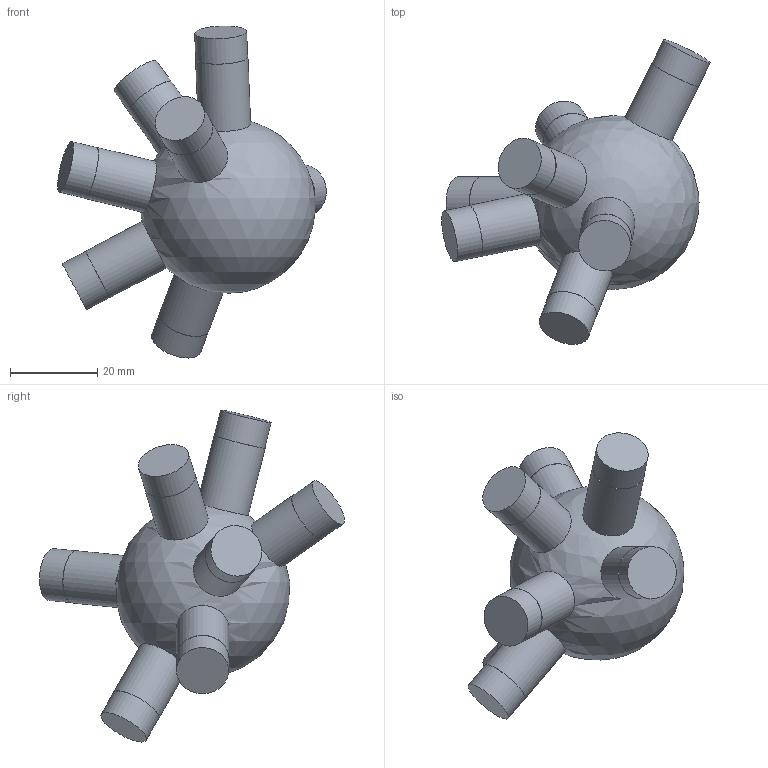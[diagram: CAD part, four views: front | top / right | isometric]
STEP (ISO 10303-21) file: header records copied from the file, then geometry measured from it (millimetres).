
FILE_DESCRIPTION(('Open CASCADE Model'),'2;1');
FILE_NAME('Open CASCADE Shape Model','2026-10-21T12:47:57',('Author'),( 'Open CASCADE'),'Open CASCADE STEP processor 7.9','Open CASCADE 7.9' ,'Unknown');
FILE_SCHEMA(('AUTOMOTIVE_DESIGN { 1 0 10303 214 1 1 1 1 }'));
Length unit declared in the file: millimetre
Products named in the file (1): Open CASCADE STEP translator 7.9 135
Bounding box: 61.47 x 69.8 x 75.99 mm (x, y, z)
Volume: 48585.3 mm3; surface area: 10168.5 mm2
Topology: 1 solids, 1 shells, 29 faces, 45 edges, 30 vertices
Faces by surface type: cylinder 14, plane 14, sphere 1
Full cylindrical faces by diameter (mm): 11.9 x7, 12 x7
Entity records: 1742 total; most frequent: CARTESIAN_POINT 704, DIRECTION 214, ORIENTED_EDGE 88, PCURVE 88, DEFINITIONAL_REPRESENTATION 88, LINE 73, VECTOR 73, AXIS2_PLACEMENT_3D 60
